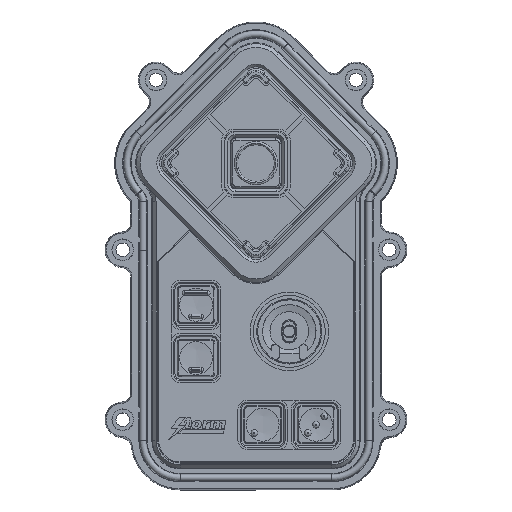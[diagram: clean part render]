
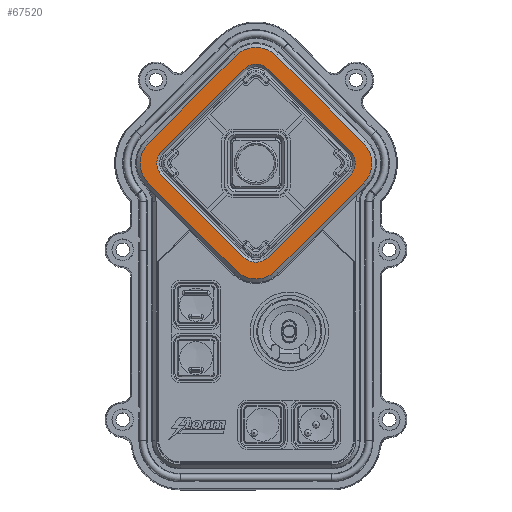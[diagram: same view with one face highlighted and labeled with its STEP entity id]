
A CAD part, top view. The second image highlights one B-rep face of the part: STEP entity #67520.
In plain terms, the highlighted planar face has unit normal (0, 0, 1).
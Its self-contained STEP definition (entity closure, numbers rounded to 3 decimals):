
#289 = VERTEX_POINT ( 'NONE', #9820 ) ;
#1199 = CARTESIAN_POINT ( 'NONE',  ( -28.245, 3.624, 0. ) ) ;
#3989 = DIRECTION ( 'NONE',  ( 1., 0., 0. ) ) ;
#6102 = DIRECTION ( 'NONE',  ( 0., 0., 1. ) ) ;
#6394 = DIRECTION ( 'NONE',  ( 1., 0., 0. ) ) ;
#8080 = CIRCLE ( 'NONE', #36801, 8.443 ) ;
#8442 = CIRCLE ( 'NONE', #92676, 8.443 ) ;
#8752 = ORIENTED_EDGE ( 'NONE', *, *, #50217, .T. ) ;
#9270 = ORIENTED_EDGE ( 'NONE', *, *, #11646, .T. ) ;
#9278 = CARTESIAN_POINT ( 'NONE',  ( -5.97, 32.289, 0. ) ) ;
#9746 = DIRECTION ( 'NONE',  ( 0., 0., -1. ) ) ;
#9820 = CARTESIAN_POINT ( 'NONE',  ( 28.245, 3.624, 0. ) ) ;
#11646 = EDGE_CURVE ( 'NONE', #13497, #146996, #117612, .T. ) ;
#11718 = DIRECTION ( 'NONE',  ( -0.707, -0.707, 0. ) ) ;
#12151 = CARTESIAN_POINT ( 'NONE',  ( 32.289, 5.97, 0. ) ) ;
#12997 = DIRECTION ( 'NONE',  ( -0.707, -0.707, 0. ) ) ;
#13380 = LINE ( 'NONE', #81591, #49311 ) ;
#13497 = VERTEX_POINT ( 'NONE', #9278 ) ;
#13511 = EDGE_CURVE ( 'NONE', #117496, #41481, #29046, .T. ) ;
#13720 = AXIS2_PLACEMENT_3D ( 'NONE', #146184, #110215, #36903 ) ;
#14102 = EDGE_CURVE ( 'NONE', #103848, #25321, #113923, .T. ) ;
#14389 = CARTESIAN_POINT ( 'NONE',  ( -3.624, 28.245, 0. ) ) ;
#15325 = AXIS2_PLACEMENT_3D ( 'NONE', #56643, #130508, #92531 ) ;
#15688 = VERTEX_POINT ( 'NONE', #134105 ) ;
#16302 = LINE ( 'NONE', #37139, #42923 ) ;
#16684 = CARTESIAN_POINT ( 'NONE',  ( 5.97, 32.289, 0. ) ) ;
#18000 = CARTESIAN_POINT ( 'NONE',  ( 0., 26.319, 0. ) ) ;
#19895 = DIRECTION ( 'NONE',  ( 0.707, 0.707, 0. ) ) ;
#20749 = CARTESIAN_POINT ( 'NONE',  ( -32.289, -5.97, 0. ) ) ;
#21234 = VECTOR ( 'NONE', #12997, 1000. ) ;
#21635 = CARTESIAN_POINT ( 'NONE',  ( 32.289, -5.97, 0. ) ) ;
#25321 = VERTEX_POINT ( 'NONE', #21635 ) ;
#25795 = CARTESIAN_POINT ( 'NONE',  ( -28.245, -3.624, 0. ) ) ;
#26131 = CARTESIAN_POINT ( 'NONE',  ( -5.97, 32.289, 0. ) ) ;
#29046 = LINE ( 'NONE', #155050, #59215 ) ;
#29306 = DIRECTION ( 'NONE',  ( 0., 0., -1. ) ) ;
#29648 = DIRECTION ( 'NONE',  ( 1., 0., 0. ) ) ;
#30939 = DIRECTION ( 'NONE',  ( 1., 0., 0. ) ) ;
#30968 = CARTESIAN_POINT ( 'NONE',  ( 28.245, -3.624, 0. ) ) ;
#31238 = DIRECTION ( 'NONE',  ( 0., 0., 1. ) ) ;
#31264 = EDGE_CURVE ( 'NONE', #138283, #70582, #33756, .T. ) ;
#32416 = AXIS2_PLACEMENT_3D ( 'NONE', #76819, #29306, #3989 ) ;
#33756 = LINE ( 'NONE', #104438, #116926 ) ;
#34642 = AXIS2_PLACEMENT_3D ( 'NONE', #91621, #6102, #30939 ) ;
#36801 = AXIS2_PLACEMENT_3D ( 'NONE', #78721, #31238, #29648 ) ;
#36903 = DIRECTION ( 'NONE',  ( 1., 0., 0. ) ) ;
#37139 = CARTESIAN_POINT ( 'NONE',  ( 3.624, -28.245, 0. ) ) ;
#37537 = PLANE ( 'NONE',  #87233 ) ;
#38585 = CARTESIAN_POINT ( 'NONE',  ( 0., 26.319, 0. ) ) ;
#39729 = VECTOR ( 'NONE', #93124, 1000. ) ;
#40174 = ORIENTED_EDGE ( 'NONE', *, *, #75180, .T. ) ;
#40263 = ORIENTED_EDGE ( 'NONE', *, *, #131361, .T. ) ;
#41481 = VERTEX_POINT ( 'NONE', #57273 ) ;
#42274 = FACE_BOUND ( 'NONE', #50032, .T. ) ;
#42552 = EDGE_LOOP ( 'NONE', ( #129763, #81315, #79471, #9270, #129851, #94832, #125372, #55314 ) ) ;
#42923 = VECTOR ( 'NONE', #11718, 1000. ) ;
#44333 = ORIENTED_EDGE ( 'NONE', *, *, #31264, .T. ) ;
#45096 = CARTESIAN_POINT ( 'NONE',  ( -32.289, 5.97, 0. ) ) ;
#46145 = LINE ( 'NONE', #16684, #129262 ) ;
#48154 = EDGE_CURVE ( 'NONE', #70582, #132647, #127379, .T. ) ;
#49305 = CIRCLE ( 'NONE', #15325, 8.443 ) ;
#49311 = VECTOR ( 'NONE', #93766, 1000. ) ;
#50032 = EDGE_LOOP ( 'NONE', ( #108253, #8752, #79135, #40263, #40174, #44333, #54659, #79051 ) ) ;
#50217 = EDGE_CURVE ( 'NONE', #140860, #15688, #16302, .T. ) ;
#51749 = EDGE_CURVE ( 'NONE', #289, #140860, #75015, .T. ) ;
#53508 = EDGE_CURVE ( 'NONE', #25321, #58823, #49305, .T. ) ;
#54659 = ORIENTED_EDGE ( 'NONE', *, *, #48154, .T. ) ;
#55314 = ORIENTED_EDGE ( 'NONE', *, *, #14102, .T. ) ;
#56643 = CARTESIAN_POINT ( 'NONE',  ( 26.319, 0., 0. ) ) ;
#57273 = CARTESIAN_POINT ( 'NONE',  ( -5.97, -32.289, 0. ) ) ;
#57637 = EDGE_CURVE ( 'NONE', #126917, #13497, #8442, .T. ) ;
#58393 = DIRECTION ( 'NONE',  ( 0.707, -0.707, 0. ) ) ;
#58819 = CARTESIAN_POINT ( 'NONE',  ( 5.97, -32.289, 0. ) ) ;
#58823 = VERTEX_POINT ( 'NONE', #12151 ) ;
#59215 = VECTOR ( 'NONE', #58393, 1000. ) ;
#62284 = CARTESIAN_POINT ( 'NONE',  ( -3.624, -28.245, 0. ) ) ;
#63929 = CIRCLE ( 'NONE', #13720, 5.125 ) ;
#67520 = ADVANCED_FACE ( 'NONE', ( #42274, #70527 ), #37537, .T. ) ;
#69958 = DIRECTION ( 'NONE',  ( 1., 0., 0. ) ) ;
#70527 = FACE_OUTER_BOUND ( 'NONE', #42552, .T. ) ;
#70582 = VERTEX_POINT ( 'NONE', #14389 ) ;
#74933 = DIRECTION ( 'NONE',  ( 1., 0., 0. ) ) ;
#75015 = CIRCLE ( 'NONE', #127321, 5.125 ) ;
#75180 = EDGE_CURVE ( 'NONE', #109099, #138283, #63929, .T. ) ;
#76819 = CARTESIAN_POINT ( 'NONE',  ( 0., -24.621, 0. ) ) ;
#78270 = CIRCLE ( 'NONE', #34642, 8.443 ) ;
#78721 = CARTESIAN_POINT ( 'NONE',  ( -26.319, 0., 0. ) ) ;
#79051 = ORIENTED_EDGE ( 'NONE', *, *, #146478, .T. ) ;
#79135 = ORIENTED_EDGE ( 'NONE', *, *, #149014, .T. ) ;
#79162 = AXIS2_PLACEMENT_3D ( 'NONE', #79817, #103132, #116301 ) ;
#79471 = ORIENTED_EDGE ( 'NONE', *, *, #57637, .T. ) ;
#79745 = DIRECTION ( 'NONE',  ( 0., 0., 1. ) ) ;
#79817 = CARTESIAN_POINT ( 'NONE',  ( 0., 24.621, 0. ) ) ;
#81315 = ORIENTED_EDGE ( 'NONE', *, *, #140942, .T. ) ;
#81591 = CARTESIAN_POINT ( 'NONE',  ( 28.245, 3.624, 0. ) ) ;
#86833 = LINE ( 'NONE', #95206, #39729 ) ;
#87233 = AXIS2_PLACEMENT_3D ( 'NONE', #38585, #147352, #74933 ) ;
#91621 = CARTESIAN_POINT ( 'NONE',  ( 0., -26.319, 0. ) ) ;
#92531 = DIRECTION ( 'NONE',  ( 1., 0., 0. ) ) ;
#92676 = AXIS2_PLACEMENT_3D ( 'NONE', #18000, #79745, #6394 ) ;
#92687 = CARTESIAN_POINT ( 'NONE',  ( 24.621, 0., 0. ) ) ;
#93124 = DIRECTION ( 'NONE',  ( -0.707, 0.707, 0. ) ) ;
#93766 = DIRECTION ( 'NONE',  ( 0.707, -0.707, 0. ) ) ;
#94832 = ORIENTED_EDGE ( 'NONE', *, *, #13511, .T. ) ;
#95206 = CARTESIAN_POINT ( 'NONE',  ( -28.245, -3.624, 0. ) ) ;
#103132 = DIRECTION ( 'NONE',  ( 0., 0., -1. ) ) ;
#103848 = VERTEX_POINT ( 'NONE', #58819 ) ;
#104173 = EDGE_CURVE ( 'NONE', #146996, #117496, #8080, .T. ) ;
#104438 = CARTESIAN_POINT ( 'NONE',  ( -3.624, 28.245, 0. ) ) ;
#108253 = ORIENTED_EDGE ( 'NONE', *, *, #51749, .T. ) ;
#109012 = VERTEX_POINT ( 'NONE', #62284 ) ;
#109099 = VERTEX_POINT ( 'NONE', #25795 ) ;
#110215 = DIRECTION ( 'NONE',  ( 0., 0., -1. ) ) ;
#113923 = LINE ( 'NONE', #122560, #153653 ) ;
#116158 = EDGE_CURVE ( 'NONE', #41481, #103848, #78270, .T. ) ;
#116301 = DIRECTION ( 'NONE',  ( 1., 0., 0. ) ) ;
#116926 = VECTOR ( 'NONE', #19895, 1000. ) ;
#117496 = VERTEX_POINT ( 'NONE', #20749 ) ;
#117612 = LINE ( 'NONE', #26131, #21234 ) ;
#122560 = CARTESIAN_POINT ( 'NONE',  ( 32.289, -5.97, 0. ) ) ;
#125372 = ORIENTED_EDGE ( 'NONE', *, *, #116158, .T. ) ;
#125462 = DIRECTION ( 'NONE',  ( -0.707, 0.707, 0. ) ) ;
#126917 = VERTEX_POINT ( 'NONE', #138198 ) ;
#127321 = AXIS2_PLACEMENT_3D ( 'NONE', #92687, #9746, #69958 ) ;
#127379 = CIRCLE ( 'NONE', #79162, 5.125 ) ;
#129262 = VECTOR ( 'NONE', #125462, 1000. ) ;
#129763 = ORIENTED_EDGE ( 'NONE', *, *, #53508, .T. ) ;
#129851 = ORIENTED_EDGE ( 'NONE', *, *, #104173, .T. ) ;
#130508 = DIRECTION ( 'NONE',  ( 0., 0., 1. ) ) ;
#131361 = EDGE_CURVE ( 'NONE', #109012, #109099, #86833, .T. ) ;
#132647 = VERTEX_POINT ( 'NONE', #151271 ) ;
#134105 = CARTESIAN_POINT ( 'NONE',  ( 3.624, -28.245, 0. ) ) ;
#137015 = CIRCLE ( 'NONE', #32416, 5.125 ) ;
#138198 = CARTESIAN_POINT ( 'NONE',  ( 5.97, 32.289, 0. ) ) ;
#138283 = VERTEX_POINT ( 'NONE', #1199 ) ;
#140860 = VERTEX_POINT ( 'NONE', #30968 ) ;
#140942 = EDGE_CURVE ( 'NONE', #58823, #126917, #46145, .T. ) ;
#146184 = CARTESIAN_POINT ( 'NONE',  ( -24.621, 0., 0. ) ) ;
#146373 = DIRECTION ( 'NONE',  ( 0.707, 0.707, 0. ) ) ;
#146478 = EDGE_CURVE ( 'NONE', #132647, #289, #13380, .T. ) ;
#146996 = VERTEX_POINT ( 'NONE', #45096 ) ;
#147352 = DIRECTION ( 'NONE',  ( 0., 0., 1. ) ) ;
#149014 = EDGE_CURVE ( 'NONE', #15688, #109012, #137015, .T. ) ;
#151271 = CARTESIAN_POINT ( 'NONE',  ( 3.624, 28.245, 0. ) ) ;
#153653 = VECTOR ( 'NONE', #146373, 1000. ) ;
#155050 = CARTESIAN_POINT ( 'NONE',  ( -32.289, -5.97, 0. ) ) ;
